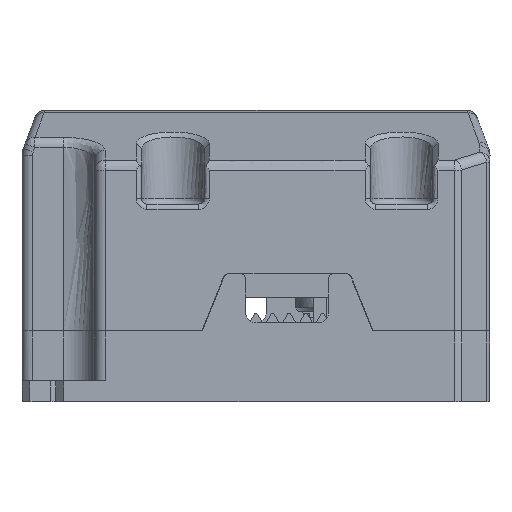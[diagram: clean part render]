
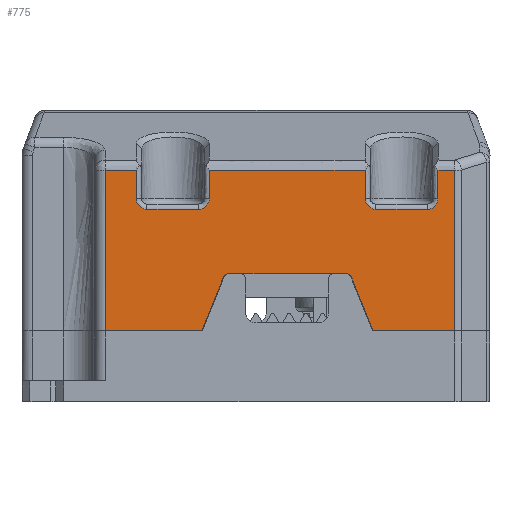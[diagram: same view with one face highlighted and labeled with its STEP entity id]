
A CAD part, left-side view. The second image highlights one B-rep face of the part: STEP entity #775.
In plain terms, the highlighted planar face has unit normal (-1, 0, 0).
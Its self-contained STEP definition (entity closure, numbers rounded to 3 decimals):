
#775=ADVANCED_FACE('',(#1608),#13873,.T.);
#1608=FACE_OUTER_BOUND('',#2453,.T.);
#2453=EDGE_LOOP('',(#6510,#6511,#6512,#6513,#6514,#6515,#6516,#6517,#6518,
#6519,#6520,#6521,#6522,#6523,#6524,#6525,#6526,#6527,#6528,#6529,#6530,
#6531));
#6510=ORIENTED_EDGE('',*,*,#9089,.T.);
#6511=ORIENTED_EDGE('',*,*,#9101,.T.);
#6512=ORIENTED_EDGE('',*,*,#9100,.T.);
#6513=ORIENTED_EDGE('',*,*,#9099,.T.);
#6514=ORIENTED_EDGE('',*,*,#9257,.T.);
#6515=ORIENTED_EDGE('',*,*,#9098,.T.);
#6516=ORIENTED_EDGE('',*,*,#9261,.T.);
#6517=ORIENTED_EDGE('',*,*,#9097,.T.);
#6518=ORIENTED_EDGE('',*,*,#9096,.T.);
#6519=ORIENTED_EDGE('',*,*,#9095,.T.);
#6520=ORIENTED_EDGE('',*,*,#9273,.T.);
#6521=ORIENTED_EDGE('',*,*,#9094,.T.);
#6522=ORIENTED_EDGE('',*,*,#9276,.T.);
#6523=ORIENTED_EDGE('',*,*,#9093,.T.);
#6524=ORIENTED_EDGE('',*,*,#9092,.T.);
#6525=ORIENTED_EDGE('',*,*,#9091,.T.);
#6526=ORIENTED_EDGE('',*,*,#9079,.T.);
#6527=ORIENTED_EDGE('',*,*,#9368,.T.);
#6528=ORIENTED_EDGE('',*,*,#9370,.T.);
#6529=ORIENTED_EDGE('',*,*,#9090,.T.);
#6530=ORIENTED_EDGE('',*,*,#9374,.T.);
#6531=ORIENTED_EDGE('',*,*,#9102,.T.);
#9079=EDGE_CURVE('',#12919,#12920,#11445,.T.);
#9089=EDGE_CURVE('',#12932,#12933,#11455,.T.);
#9090=EDGE_CURVE('',#12938,#12937,#11456,.T.);
#9091=EDGE_CURVE('',#12940,#12919,#11457,.T.);
#9092=EDGE_CURVE('',#12941,#12940,#11458,.T.);
#9093=EDGE_CURVE('',#12942,#12941,#11459,.T.);
#9094=EDGE_CURVE('',#12944,#12943,#11460,.T.);
#9095=EDGE_CURVE('',#12946,#12945,#11461,.T.);
#9096=EDGE_CURVE('',#12947,#12946,#11462,.T.);
#9097=EDGE_CURVE('',#12948,#12947,#11463,.T.);
#9098=EDGE_CURVE('',#12950,#12949,#11464,.T.);
#9099=EDGE_CURVE('',#12952,#12951,#11465,.T.);
#9100=EDGE_CURVE('',#12953,#12952,#11466,.T.);
#9101=EDGE_CURVE('',#12933,#12953,#11467,.T.);
#9102=EDGE_CURVE('',#12936,#12932,#11468,.T.);
#9257=EDGE_CURVE('',#12951,#12950,#9874,.T.);
#9261=EDGE_CURVE('',#12949,#12948,#9878,.T.);
#9273=EDGE_CURVE('',#12945,#12944,#9882,.T.);
#9276=EDGE_CURVE('',#12943,#12942,#9885,.T.);
#9368=EDGE_CURVE('',#12920,#12939,#11643,.T.);
#9370=EDGE_CURVE('',#12939,#12938,#9916,.T.);
#9374=EDGE_CURVE('',#12937,#12936,#9918,.T.);
#9874=(
BOUNDED_CURVE()
B_SPLINE_CURVE(2,(#32494,#32495,#32496),.UNSPECIFIED.,.F.,.F.)
B_SPLINE_CURVE_WITH_KNOTS((3,3),(0.,1.571),.UNSPECIFIED.)
CURVE()
GEOMETRIC_REPRESENTATION_ITEM()
RATIONAL_B_SPLINE_CURVE((1.,0.707,1.))
REPRESENTATION_ITEM('')
);
#9878=(
BOUNDED_CURVE()
B_SPLINE_CURVE(2,(#32506,#32507,#32508),.UNSPECIFIED.,.F.,.F.)
B_SPLINE_CURVE_WITH_KNOTS((3,3),(0.,1.571),.UNSPECIFIED.)
CURVE()
GEOMETRIC_REPRESENTATION_ITEM()
RATIONAL_B_SPLINE_CURVE((1.,0.707,1.))
REPRESENTATION_ITEM('')
);
#9882=(
BOUNDED_CURVE()
B_SPLINE_CURVE(2,(#32560,#32561,#32562),.UNSPECIFIED.,.F.,.F.)
B_SPLINE_CURVE_WITH_KNOTS((3,3),(0.,1.571),.UNSPECIFIED.)
CURVE()
GEOMETRIC_REPRESENTATION_ITEM()
RATIONAL_B_SPLINE_CURVE((1.,0.707,1.))
REPRESENTATION_ITEM('')
);
#9885=(
BOUNDED_CURVE()
B_SPLINE_CURVE(2,(#32569,#32570,#32571),.UNSPECIFIED.,.F.,.F.)
B_SPLINE_CURVE_WITH_KNOTS((3,3),(0.,1.571),.UNSPECIFIED.)
CURVE()
GEOMETRIC_REPRESENTATION_ITEM()
RATIONAL_B_SPLINE_CURVE((1.,0.707,1.))
REPRESENTATION_ITEM('')
);
#9916=(
BOUNDED_CURVE()
B_SPLINE_CURVE(2,(#32846,#32847,#32848),.UNSPECIFIED.,.F.,.F.)
B_SPLINE_CURVE_WITH_KNOTS((3,3),(0.,0.595),.UNSPECIFIED.)
CURVE()
GEOMETRIC_REPRESENTATION_ITEM()
RATIONAL_B_SPLINE_CURVE((1.,0.828,1.))
REPRESENTATION_ITEM('')
);
#9918=(
BOUNDED_CURVE()
B_SPLINE_CURVE(2,(#32856,#32857,#32858),.UNSPECIFIED.,.F.,.F.)
B_SPLINE_CURVE_WITH_KNOTS((3,3),(0.,0.595),.UNSPECIFIED.)
CURVE()
GEOMETRIC_REPRESENTATION_ITEM()
RATIONAL_B_SPLINE_CURVE((1.,0.828,1.))
REPRESENTATION_ITEM('')
);
#11445=B_SPLINE_CURVE_WITH_KNOTS('',1,(#31927,#31928),.UNSPECIFIED.,.F.,
 .F.,(2,2),(0.,9.35),.UNSPECIFIED.);
#11455=B_SPLINE_CURVE_WITH_KNOTS('',1,(#31947,#31948),.UNSPECIFIED.,.F.,
 .F.,(2,2),(0.,7.836),.UNSPECIFIED.);
#11456=B_SPLINE_CURVE_WITH_KNOTS('',1,(#31949,#31950),.UNSPECIFIED.,.F.,
 .F.,(2,2),(-11.323,0.),.UNSPECIFIED.);
#11457=B_SPLINE_CURVE_WITH_KNOTS('',1,(#31951,#31952),.UNSPECIFIED.,.F.,
 .F.,(2,2),(-15.465,0.),.UNSPECIFIED.);
#11458=B_SPLINE_CURVE_WITH_KNOTS('',1,(#31953,#31954),.UNSPECIFIED.,.F.,
 .F.,(2,2),(-3.,0.),.UNSPECIFIED.);
#11459=B_SPLINE_CURVE_WITH_KNOTS('',1,(#31955,#31956),.UNSPECIFIED.,.F.,
 .F.,(2,2),(-2.765,0.),.UNSPECIFIED.);
#11460=B_SPLINE_CURVE_WITH_KNOTS('',1,(#31957,#31958),.UNSPECIFIED.,.F.,
 .F.,(2,2),(-5.,0.),.UNSPECIFIED.);
#11461=B_SPLINE_CURVE_WITH_KNOTS('',1,(#31959,#31960),.UNSPECIFIED.,.F.,
 .F.,(2,2),(-2.765,0.),.UNSPECIFIED.);
#11462=B_SPLINE_CURVE_WITH_KNOTS('',1,(#31961,#31962),.UNSPECIFIED.,.F.,
 .F.,(2,2),(-15.,0.),.UNSPECIFIED.);
#11463=B_SPLINE_CURVE_WITH_KNOTS('',1,(#31963,#31964),.UNSPECIFIED.,.F.,
 .F.,(2,2),(-2.765,0.),.UNSPECIFIED.);
#11464=B_SPLINE_CURVE_WITH_KNOTS('',1,(#31965,#31966),.UNSPECIFIED.,.F.,
 .F.,(2,2),(-5.,0.),.UNSPECIFIED.);
#11465=B_SPLINE_CURVE_WITH_KNOTS('',1,(#31967,#31968),.UNSPECIFIED.,.F.,
 .F.,(2,2),(-2.765,0.),.UNSPECIFIED.);
#11466=B_SPLINE_CURVE_WITH_KNOTS('',1,(#31969,#31970),.UNSPECIFIED.,.F.,
 .F.,(2,2),(-1.586,0.),.UNSPECIFIED.);
#11467=B_SPLINE_CURVE_WITH_KNOTS('',1,(#31971,#31972),.UNSPECIFIED.,.F.,
 .F.,(2,2),(-15.465,0.),.UNSPECIFIED.);
#11468=B_SPLINE_CURVE_WITH_KNOTS('',1,(#31973,#31974),.UNSPECIFIED.,.F.,
 .F.,(2,2),(0.,5.585),.UNSPECIFIED.);
#11643=B_SPLINE_CURVE_WITH_KNOTS('',1,(#32842,#32843),.UNSPECIFIED.,.F.,
 .F.,(2,2),(0.,5.585),.UNSPECIFIED.);
#12919=VERTEX_POINT('',#31583);
#12920=VERTEX_POINT('',#31584);
#12932=VERTEX_POINT('',#31596);
#12933=VERTEX_POINT('',#31597);
#12936=VERTEX_POINT('',#31600);
#12937=VERTEX_POINT('',#31601);
#12938=VERTEX_POINT('',#31602);
#12939=VERTEX_POINT('',#31603);
#12940=VERTEX_POINT('',#31604);
#12941=VERTEX_POINT('',#31605);
#12942=VERTEX_POINT('',#31606);
#12943=VERTEX_POINT('',#31607);
#12944=VERTEX_POINT('',#31608);
#12945=VERTEX_POINT('',#31609);
#12946=VERTEX_POINT('',#31610);
#12947=VERTEX_POINT('',#31611);
#12948=VERTEX_POINT('',#31612);
#12949=VERTEX_POINT('',#31613);
#12950=VERTEX_POINT('',#31614);
#12951=VERTEX_POINT('',#31615);
#12952=VERTEX_POINT('',#31616);
#12953=VERTEX_POINT('',#31617);
#13873=PLANE('',#14329);
#14329=AXIS2_PLACEMENT_3D('',#29564,#14769,$);
#14769=DIRECTION('',(-1.,0.,0.));
#29564=CARTESIAN_POINT('',(-57.5,30.041,-8.929));
#31583=CARTESIAN_POINT('',(-57.5,26.5,-7.2));
#31584=CARTESIAN_POINT('',(-57.5,17.15,-7.2));
#31596=CARTESIAN_POINT('',(-57.5,0.75,-7.2));
#31597=CARTESIAN_POINT('',(-57.5,-7.086,-7.2));
#31600=CARTESIAN_POINT('',(-57.5,2.824,-2.014));
#31601=CARTESIAN_POINT('',(-57.5,3.289,-1.7));
#31602=CARTESIAN_POINT('',(-57.5,14.611,-1.7));
#31603=CARTESIAN_POINT('',(-57.5,15.076,-2.014));
#31604=CARTESIAN_POINT('',(-57.5,26.5,8.265));
#31605=CARTESIAN_POINT('',(-57.5,23.5,8.265));
#31606=CARTESIAN_POINT('',(-57.5,23.5,5.5));
#31607=CARTESIAN_POINT('',(-57.5,22.5,4.5));
#31608=CARTESIAN_POINT('',(-57.5,17.5,4.5));
#31609=CARTESIAN_POINT('',(-57.5,16.5,5.5));
#31610=CARTESIAN_POINT('',(-57.5,16.5,8.265));
#31611=CARTESIAN_POINT('',(-57.5,1.5,8.265));
#31612=CARTESIAN_POINT('',(-57.5,1.5,5.5));
#31613=CARTESIAN_POINT('',(-57.5,0.5,4.5));
#31614=CARTESIAN_POINT('',(-57.5,-4.5,4.5));
#31615=CARTESIAN_POINT('',(-57.5,-5.5,5.5));
#31616=CARTESIAN_POINT('',(-57.5,-5.5,8.265));
#31617=CARTESIAN_POINT('',(-57.5,-7.086,8.265));
#31927=CARTESIAN_POINT('',(-57.5,26.5,-7.2));
#31928=CARTESIAN_POINT('',(-57.5,17.15,-7.2));
#31947=CARTESIAN_POINT('',(-57.5,0.75,-7.2));
#31948=CARTESIAN_POINT('',(-57.5,-7.086,-7.2));
#31949=CARTESIAN_POINT('',(-57.5,14.611,-1.7));
#31950=CARTESIAN_POINT('',(-57.5,3.289,-1.7));
#31951=CARTESIAN_POINT('',(-57.5,26.5,8.265));
#31952=CARTESIAN_POINT('',(-57.5,26.5,-7.2));
#31953=CARTESIAN_POINT('',(-57.5,23.5,8.265));
#31954=CARTESIAN_POINT('',(-57.5,26.5,8.265));
#31955=CARTESIAN_POINT('',(-57.5,23.5,5.5));
#31956=CARTESIAN_POINT('',(-57.5,23.5,8.265));
#31957=CARTESIAN_POINT('',(-57.5,17.5,4.5));
#31958=CARTESIAN_POINT('',(-57.5,22.5,4.5));
#31959=CARTESIAN_POINT('',(-57.5,16.5,8.265));
#31960=CARTESIAN_POINT('',(-57.5,16.5,5.5));
#31961=CARTESIAN_POINT('',(-57.5,1.5,8.265));
#31962=CARTESIAN_POINT('',(-57.5,16.5,8.265));
#31963=CARTESIAN_POINT('',(-57.5,1.5,5.5));
#31964=CARTESIAN_POINT('',(-57.5,1.5,8.265));
#31965=CARTESIAN_POINT('',(-57.5,-4.5,4.5));
#31966=CARTESIAN_POINT('',(-57.5,0.5,4.5));
#31967=CARTESIAN_POINT('',(-57.5,-5.5,8.265));
#31968=CARTESIAN_POINT('',(-57.5,-5.5,5.5));
#31969=CARTESIAN_POINT('',(-57.5,-7.086,8.265));
#31970=CARTESIAN_POINT('',(-57.5,-5.5,8.265));
#31971=CARTESIAN_POINT('',(-57.5,-7.086,-7.2));
#31972=CARTESIAN_POINT('',(-57.5,-7.086,8.265));
#31973=CARTESIAN_POINT('',(-57.5,2.824,-2.014));
#31974=CARTESIAN_POINT('',(-57.5,0.75,-7.2));
#32494=CARTESIAN_POINT('',(-57.5,-5.5,5.5));
#32495=CARTESIAN_POINT('',(-57.5,-5.5,4.5));
#32496=CARTESIAN_POINT('',(-57.5,-4.5,4.5));
#32506=CARTESIAN_POINT('',(-57.5,0.5,4.5));
#32507=CARTESIAN_POINT('',(-57.5,1.5,4.5));
#32508=CARTESIAN_POINT('',(-57.5,1.5,5.5));
#32560=CARTESIAN_POINT('',(-57.5,16.5,5.5));
#32561=CARTESIAN_POINT('',(-57.5,16.5,4.5));
#32562=CARTESIAN_POINT('',(-57.5,17.5,4.5));
#32569=CARTESIAN_POINT('',(-57.5,22.5,4.5));
#32570=CARTESIAN_POINT('',(-57.5,23.5,4.5));
#32571=CARTESIAN_POINT('',(-57.5,23.5,5.5));
#32842=CARTESIAN_POINT('',(-57.5,17.15,-7.2));
#32843=CARTESIAN_POINT('',(-57.5,15.076,-2.014));
#32846=CARTESIAN_POINT('',(-57.5,15.076,-2.014));
#32847=CARTESIAN_POINT('',(-57.5,14.95,-1.7));
#32848=CARTESIAN_POINT('',(-57.5,14.611,-1.7));
#32856=CARTESIAN_POINT('',(-57.5,3.289,-1.7));
#32857=CARTESIAN_POINT('',(-57.5,2.95,-1.7));
#32858=CARTESIAN_POINT('',(-57.5,2.824,-2.014));
